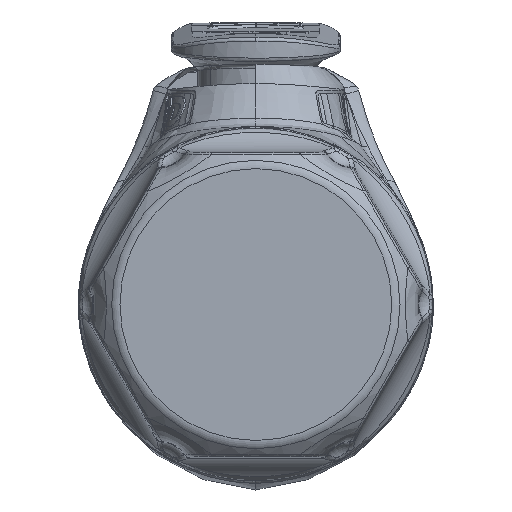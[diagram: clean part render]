
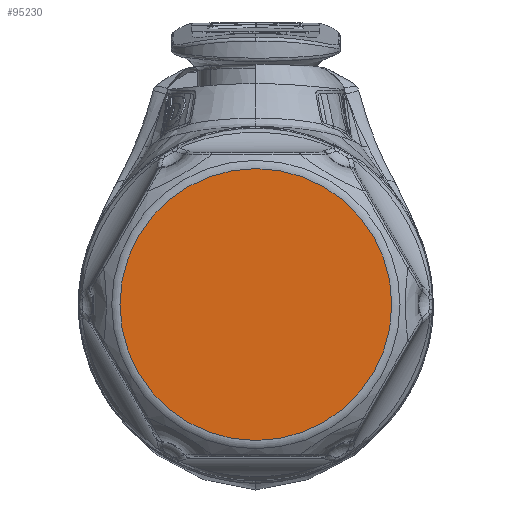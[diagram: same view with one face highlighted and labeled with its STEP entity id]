
A CAD part, front view. The second image highlights one B-rep face of the part: STEP entity #95230.
In plain terms, the highlighted planar face has unit normal (0, -1, 0).
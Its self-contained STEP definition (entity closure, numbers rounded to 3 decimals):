
#6328 = DIRECTION ( 'NONE',  ( 0., -1., 0. ) ) ;
#6889 = PLANE ( 'NONE',  #40175 ) ;
#7878 = CARTESIAN_POINT ( 'NONE',  ( 0., -58.7, 0. ) ) ;
#17585 = CARTESIAN_POINT ( 'NONE',  ( 11.016, -58.7, 0. ) ) ;
#18169 = EDGE_CURVE ( 'NONE', #32789, #32789, #82084, .T. ) ;
#32789 = VERTEX_POINT ( 'NONE', #17585 ) ;
#36835 = AXIS2_PLACEMENT_3D ( 'NONE', #7878, #6328, #48790 ) ;
#40175 = AXIS2_PLACEMENT_3D ( 'NONE', #62506, #61481, #78724 ) ;
#48790 = DIRECTION ( 'NONE',  ( 1., 0., 0. ) ) ;
#61481 = DIRECTION ( 'NONE',  ( 0., -1., 0. ) ) ;
#62506 = CARTESIAN_POINT ( 'NONE',  ( 0., -58.7, 0. ) ) ;
#77162 = FACE_OUTER_BOUND ( 'NONE', #81093, .T. ) ;
#78401 = ORIENTED_EDGE ( 'NONE', *, *, #18169, .T. ) ;
#78724 = DIRECTION ( 'NONE',  ( 0., 0., -1. ) ) ;
#81093 = EDGE_LOOP ( 'NONE', ( #78401 ) ) ;
#82084 = CIRCLE ( 'NONE', #36835, 11.016 ) ;
#95230 = ADVANCED_FACE ( 'NONE', ( #77162 ), #6889, .T. ) ;
